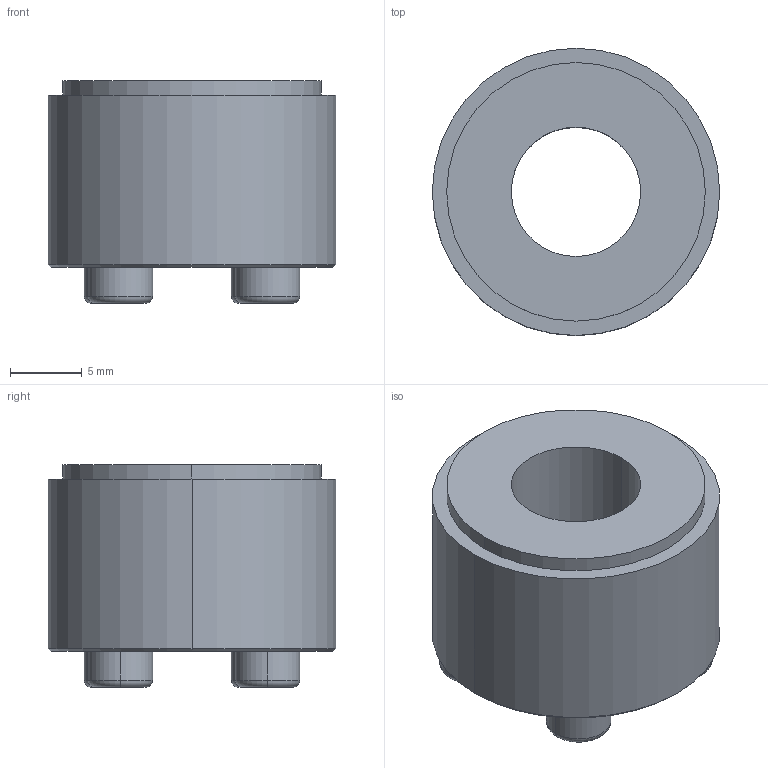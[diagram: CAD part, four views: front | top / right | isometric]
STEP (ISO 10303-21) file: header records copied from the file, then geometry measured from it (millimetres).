
FILE_DESCRIPTION (( 'STEP AP203' ), '1' );
FILE_NAME ('PL-B 9-20.STEP', '2021-10-22T07:44:31', ( '' ), ( '' ), 'SwSTEP 2.0', 'SolidWorks 2018', '' );
FILE_SCHEMA (( 'CONFIG_CONTROL_DESIGN' ));
Length unit declared in the file: millimetre
Products named in the file (1): PL-B 9-20
Bounding box: 20 x 20 x 15.5 mm (x, y, z)
Volume: 3336.5 mm3; surface area: 1827.8 mm2
Topology: 1 solids, 1 shells, 61 faces, 138 edges, 88 vertices
Faces by surface type: plane 35, cylinder 14, torus 8, cone 4
Entity records: 1785 total; most frequent: DIRECTION 310, CARTESIAN_POINT 288, ORIENTED_EDGE 276, EDGE_CURVE 138, AXIS2_PLACEMENT_3D 110, LINE 90, VECTOR 90, VERTEX_POINT 88
